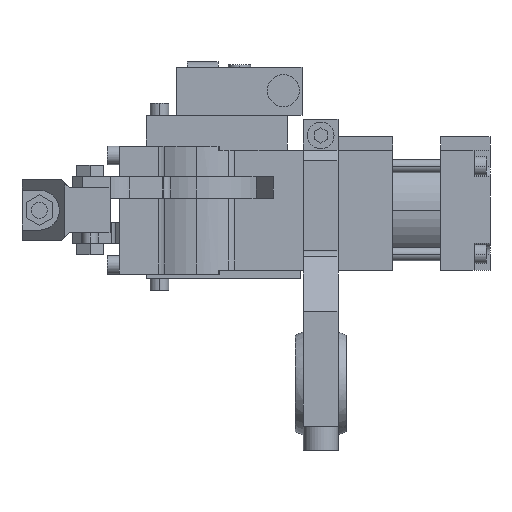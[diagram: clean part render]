
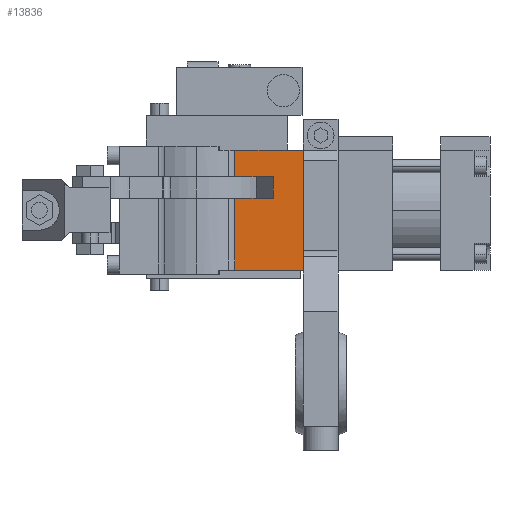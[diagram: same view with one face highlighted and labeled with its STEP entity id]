
A CAD part, left-side view. The second image highlights one B-rep face of the part: STEP entity #13836.
In plain terms, the highlighted planar face has unit normal (-1, 0, 0).
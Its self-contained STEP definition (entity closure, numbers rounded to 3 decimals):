
#231 = CARTESIAN_POINT ( 'NONE',  ( -22.5, -14.309, 4.5 ) ) ;
#295 = DIRECTION ( 'NONE',  ( 0., 0., -1. ) ) ;
#667 = EDGE_LOOP ( 'NONE', ( #4926, #4724, #11970, #6168, #11542, #20068, #18290, #3775 ) ) ;
#913 = DIRECTION ( 'NONE',  ( 0., 1., 0. ) ) ;
#1143 = LINE ( 'NONE', #16818, #4378 ) ;
#1167 = VERTEX_POINT ( 'NONE', #11329 ) ;
#1309 = LINE ( 'NONE', #15417, #13274 ) ;
#1438 = DIRECTION ( 'NONE',  ( 0., 0., 1. ) ) ;
#2232 = CARTESIAN_POINT ( 'NONE',  ( -22.5, -14.309, 12.5 ) ) ;
#2298 = EDGE_CURVE ( 'NONE', #15343, #3592, #1143, .T. ) ;
#2877 = DIRECTION ( 'NONE',  ( 0., 0., -1. ) ) ;
#2923 = AXIS2_PLACEMENT_3D ( 'NONE', #5671, #13459, #4143 ) ;
#3565 = VECTOR ( 'NONE', #10104, 1000. ) ;
#3592 = VERTEX_POINT ( 'NONE', #9485 ) ;
#3775 = ORIENTED_EDGE ( 'NONE', *, *, #10148, .T. ) ;
#4143 = DIRECTION ( 'NONE',  ( 0., 1., 0. ) ) ;
#4145 = CARTESIAN_POINT ( 'NONE',  ( -22.5, -14.309, 22.5 ) ) ;
#4378 = VECTOR ( 'NONE', #18302, 1000. ) ;
#4724 = ORIENTED_EDGE ( 'NONE', *, *, #7889, .F. ) ;
#4838 = EDGE_CURVE ( 'NONE', #16560, #14144, #11205, .T. ) ;
#4926 = ORIENTED_EDGE ( 'NONE', *, *, #16116, .F. ) ;
#5028 = CARTESIAN_POINT ( 'NONE',  ( -22.5, -14.309, 12.5 ) ) ;
#5671 = CARTESIAN_POINT ( 'NONE',  ( -22.5, -14.309, 12.5 ) ) ;
#6168 = ORIENTED_EDGE ( 'NONE', *, *, #11767, .T. ) ;
#6205 = VECTOR ( 'NONE', #295, 1000. ) ;
#6261 = VECTOR ( 'NONE', #913, 1000. ) ;
#6304 = VECTOR ( 'NONE', #19006, 1000. ) ;
#7774 = CARTESIAN_POINT ( 'NONE',  ( -22.5, -28.702, 12.5 ) ) ;
#7889 = EDGE_CURVE ( 'NONE', #16560, #19356, #9304, .T. ) ;
#8016 = VERTEX_POINT ( 'NONE', #4145 ) ;
#8402 = CARTESIAN_POINT ( 'NONE',  ( -22.5, -14.309, -22.5 ) ) ;
#8813 = VECTOR ( 'NONE', #1438, 1000. ) ;
#9304 = LINE ( 'NONE', #7774, #8813 ) ;
#9485 = CARTESIAN_POINT ( 'NONE',  ( -22.5, -40., -22.5 ) ) ;
#9922 = CARTESIAN_POINT ( 'NONE',  ( -22.5, -28.702, 12.5 ) ) ;
#10104 = DIRECTION ( 'NONE',  ( 0., 0., -1. ) ) ;
#10148 = EDGE_CURVE ( 'NONE', #8016, #14816, #12350, .T. ) ;
#10310 = LINE ( 'NONE', #5028, #6205 ) ;
#10429 = LINE ( 'NONE', #14351, #6304 ) ;
#11205 = LINE ( 'NONE', #13906, #18932 ) ;
#11329 = CARTESIAN_POINT ( 'NONE',  ( -22.5, -40., 22.5 ) ) ;
#11542 = ORIENTED_EDGE ( 'NONE', *, *, #2298, .T. ) ;
#11767 = EDGE_CURVE ( 'NONE', #14144, #15343, #10310, .T. ) ;
#11898 = PLANE ( 'NONE',  #2923 ) ;
#11970 = ORIENTED_EDGE ( 'NONE', *, *, #4838, .T. ) ;
#12350 = LINE ( 'NONE', #2232, #3565 ) ;
#13274 = VECTOR ( 'NONE', #2877, 1000. ) ;
#13459 = DIRECTION ( 'NONE',  ( 1., 0., 0. ) ) ;
#13828 = DIRECTION ( 'NONE',  ( 0., 1., 0. ) ) ;
#13836 = ADVANCED_FACE ( 'NONE', ( #15774 ), #11898, .F. ) ;
#13906 = CARTESIAN_POINT ( 'NONE',  ( -22.5, -14.309, 4.5 ) ) ;
#14144 = VERTEX_POINT ( 'NONE', #231 ) ;
#14351 = CARTESIAN_POINT ( 'NONE',  ( -22.5, -40., 22.5 ) ) ;
#14816 = VERTEX_POINT ( 'NONE', #19211 ) ;
#15343 = VERTEX_POINT ( 'NONE', #8402 ) ;
#15417 = CARTESIAN_POINT ( 'NONE',  ( -22.5, -40., 12.5 ) ) ;
#15640 = EDGE_CURVE ( 'NONE', #1167, #3592, #1309, .T. ) ;
#15774 = FACE_OUTER_BOUND ( 'NONE', #667, .T. ) ;
#16116 = EDGE_CURVE ( 'NONE', #19356, #14816, #19079, .T. ) ;
#16560 = VERTEX_POINT ( 'NONE', #19800 ) ;
#16818 = CARTESIAN_POINT ( 'NONE',  ( -22.5, -40., -22.5 ) ) ;
#16834 = EDGE_CURVE ( 'NONE', #1167, #8016, #10429, .T. ) ;
#18050 = CARTESIAN_POINT ( 'NONE',  ( -22.5, -14.309, 12.5 ) ) ;
#18290 = ORIENTED_EDGE ( 'NONE', *, *, #16834, .T. ) ;
#18302 = DIRECTION ( 'NONE',  ( 0., -1., 0. ) ) ;
#18932 = VECTOR ( 'NONE', #13828, 1000. ) ;
#19006 = DIRECTION ( 'NONE',  ( 0., 1., 0. ) ) ;
#19079 = LINE ( 'NONE', #18050, #6261 ) ;
#19211 = CARTESIAN_POINT ( 'NONE',  ( -22.5, -14.309, 12.5 ) ) ;
#19356 = VERTEX_POINT ( 'NONE', #9922 ) ;
#19800 = CARTESIAN_POINT ( 'NONE',  ( -22.5, -28.702, 4.5 ) ) ;
#20068 = ORIENTED_EDGE ( 'NONE', *, *, #15640, .F. ) ;
